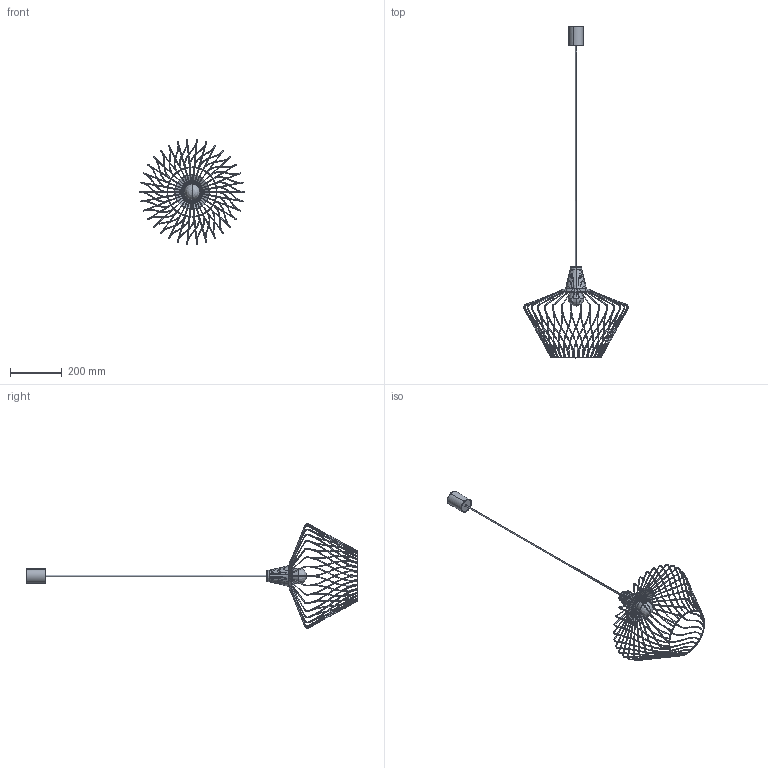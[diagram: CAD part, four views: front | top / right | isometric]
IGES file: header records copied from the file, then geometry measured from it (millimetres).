
Global section: file name: C:\Users\DELL\Desktop\Nowy folder\Wave\Wave short_E27.igs; native system: Rhinoceros ( May 22 2017 ); preprocessor: Trout Lake IGES 012 May 22 2017; date: 191203.090929; units: millimetre
Bounding box: 403 x 1277.96 x 401.29 mm (x, y, z)
Surface area: 393625.5 mm2 (no closed solid volume)
Topology: 0 solids, 0 shells, 1466 faces, 9020 edges, 9000 vertices
Faces by surface type: bspline 1466
